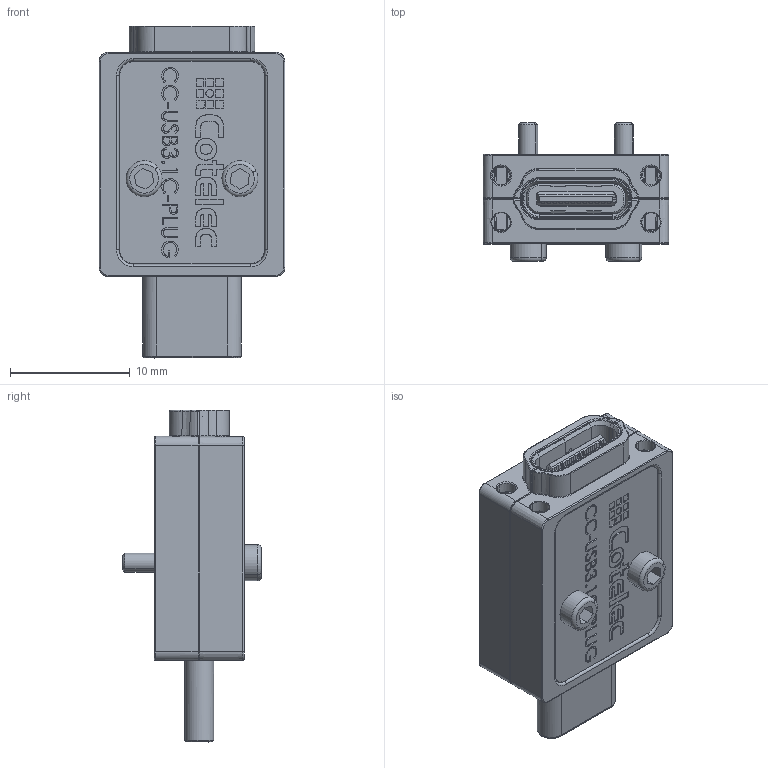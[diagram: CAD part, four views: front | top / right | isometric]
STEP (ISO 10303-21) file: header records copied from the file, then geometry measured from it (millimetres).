
FILE_DESCRIPTION (( 'STEP AP214' ), '1' );
FILE_NAME ('USB-C - Fixation vis.STEP', '2024-07-10T13:06:02', ( '' ), ( '' ), 'SwSTEP 2.0', 'SolidWorks 2015', '' );
FILE_SCHEMA (( 'AUTOMOTIVE_DESIGN' ));
Length unit declared in the file: millimetre
Products named in the file (10): 8124_105; Type-C femelle; 8124_003_USB-C; 8124_106; 8124_108; 8124_103; chc_1-6x10; Type-C Male; 8124_072-B USB type C; USB-C - Fixation vis
Assembly tree (10 placements, depth 3):
  USB-C - Fixation vis
    8124_103
    8124_003_USB-C
      Type-C Male
      Type-C femelle
      8124_072-B USB type C
    8124_106
    8124_108
    8124_105
    chc_1-6x10  x2
Bounding box: 15.53 x 11.6 x 27.74 mm (x, y, z)
Volume: 1561.8 mm3; surface area: 5176 mm2
Topology: 9 solids, 16 shells, 5293 faces, 14495 edges, 9237 vertices
Faces by surface type: plane 2589, cylinder 1852, bspline 510, torus 131, cone 118, sphere 93
Entity records: 184955 total; most frequent: CARTESIAN_POINT 55821, ORIENTED_EDGE 28670, DIRECTION 24562, EDGE_CURVE 14335, VERTEX_POINT 9213, LINE 8826, VECTOR 8826, AXIS2_PLACEMENT_3D 7868
